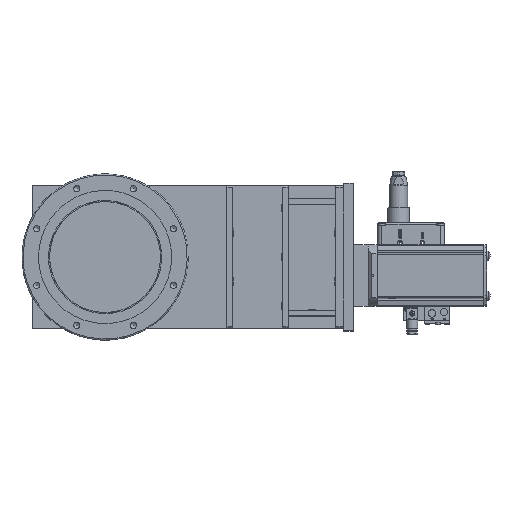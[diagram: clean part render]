
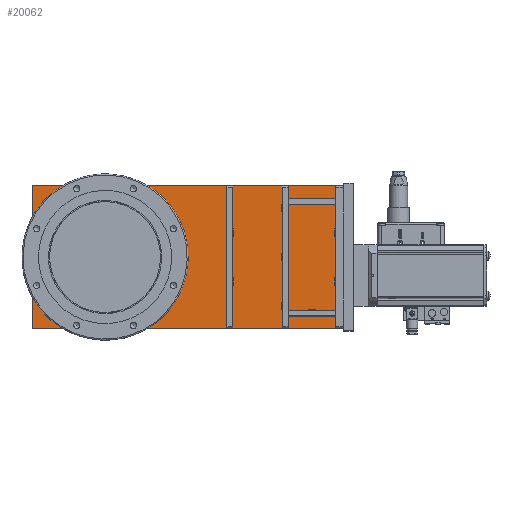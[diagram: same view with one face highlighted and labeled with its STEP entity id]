
A CAD part, top view. The second image highlights one B-rep face of the part: STEP entity #20062.
In plain terms, the highlighted planar face has unit normal (0, 0, 1).
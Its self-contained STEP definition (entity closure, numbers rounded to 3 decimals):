
#8244=LINE('',#71683,#11782);
#8246=LINE('',#71687,#11784);
#8248=LINE('',#71691,#11786);
#8250=LINE('',#71695,#11788);
#11782=VECTOR('',#56877,1.);
#11784=VECTOR('',#56881,1.);
#11786=VECTOR('',#56885,1.);
#11788=VECTOR('',#56889,1.);
#15983=PLANE('',#48227);
#20062=ADVANCED_FACE('',(#21760,#21761),#15983,.F.);
#21760=FACE_BOUND('',#24393,.T.);
#21761=FACE_BOUND('',#24394,.T.);
#24393=EDGE_LOOP('',(#32817));
#24394=EDGE_LOOP('',(#32818,#32819,#32820,#32821));
#32817=ORIENTED_EDGE('',*,*,#43243,.T.);
#32818=ORIENTED_EDGE('',*,*,#43236,.F.);
#32819=ORIENTED_EDGE('',*,*,#43234,.T.);
#32820=ORIENTED_EDGE('',*,*,#43240,.F.);
#32821=ORIENTED_EDGE('',*,*,#43238,.F.);
#38419=VERTEX_POINT('',#71682);
#38420=VERTEX_POINT('',#71684);
#38421=VERTEX_POINT('',#71688);
#38422=VERTEX_POINT('',#71692);
#38425=VERTEX_POINT('',#71703);
#43234=EDGE_CURVE('',#38420,#38419,#8244,.T.);
#43236=EDGE_CURVE('',#38420,#38421,#8246,.T.);
#43238=EDGE_CURVE('',#38421,#38422,#8248,.T.);
#43240=EDGE_CURVE('',#38422,#38419,#8250,.T.);
#43243=EDGE_CURVE('',#38425,#38425,#45391,.T.);
#45391=CIRCLE('',#48226,75.3);
#48226=AXIS2_PLACEMENT_3D('',#71702,#56898,#56899);
#48227=AXIS2_PLACEMENT_3D('',#71704,#56900,#56901);
#56877=DIRECTION('',(0.,1.,0.));
#56881=DIRECTION('',(-1.,0.,0.));
#56885=DIRECTION('',(0.,1.,0.));
#56889=DIRECTION('',(1.,0.,0.));
#56898=DIRECTION('',(0.,0.,-1.));
#56899=DIRECTION('',(0.,1.,0.));
#56900=DIRECTION('',(0.,0.,-1.));
#56901=DIRECTION('',(0.,1.,0.));
#71682=CARTESIAN_POINT('',(322.3,96.225,27.));
#71683=CARTESIAN_POINT('',(322.3,0.,27.));
#71684=CARTESIAN_POINT('',(322.3,-96.225,27.));
#71687=CARTESIAN_POINT('',(323.6,-96.225,27.));
#71688=CARTESIAN_POINT('',(-98.55,-96.225,27.));
#71691=CARTESIAN_POINT('',(-98.55,-96.225,27.));
#71692=CARTESIAN_POINT('',(-98.55,96.225,27.));
#71695=CARTESIAN_POINT('',(-98.55,96.225,27.));
#71702=CARTESIAN_POINT('',(0.,0.,27.));
#71703=CARTESIAN_POINT('',(0.,75.3,27.));
#71704=CARTESIAN_POINT('',(0.,0.,27.));
